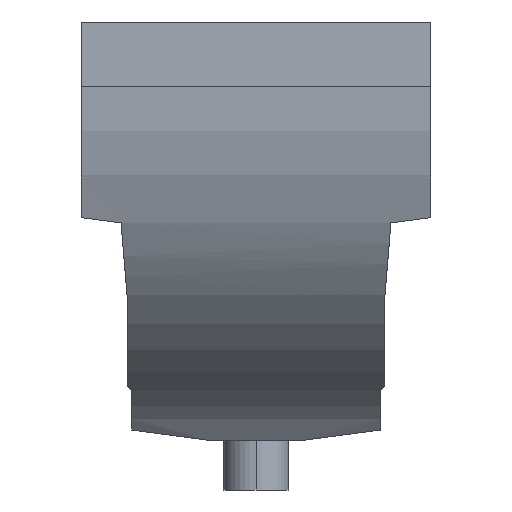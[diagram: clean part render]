
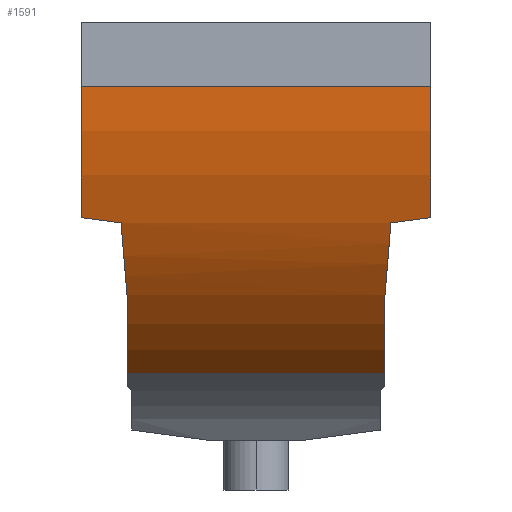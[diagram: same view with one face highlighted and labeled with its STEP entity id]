
A CAD part, left-side view. The second image highlights one B-rep face of the part: STEP entity #1591.
In plain terms, the highlighted cylindrical face has radius 115.29 mm (diameter 230.58 mm), a partial arc.
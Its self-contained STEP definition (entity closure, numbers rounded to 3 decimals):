
#19 = CARTESIAN_POINT ( 'NONE',  ( -13.707, -56.155, -89.77 ) ) ;
#45 = VERTEX_POINT ( 'NONE', #1635 ) ;
#57 = ORIENTED_EDGE ( 'NONE', *, *, #1519, .T. ) ;
#94 = DIRECTION ( 'NONE',  ( 0., 0., 1. ) ) ;
#97 = LINE ( 'NONE', #2329, #1002 ) ;
#114 = DIRECTION ( 'NONE',  ( 0., -1., 0. ) ) ;
#115 = CARTESIAN_POINT ( 'NONE',  ( -13.019, -43.295, -91.48 ) ) ;
#203 = VERTEX_POINT ( 'NONE', #304 ) ;
#221 = DIRECTION ( 'NONE',  ( 0., 1., 0. ) ) ;
#236 = DIRECTION ( 'NONE',  ( 0., 0., -1. ) ) ;
#238 = CARTESIAN_POINT ( 'NONE',  ( -21.7, 56.155, -47.59 ) ) ;
#250 = CARTESIAN_POINT ( 'NONE',  ( -13.019, -43.295, -91.48 ) ) ;
#277 = ORIENTED_EDGE ( 'NONE', *, *, #2262, .F. ) ;
#284 = EDGE_LOOP ( 'NONE', ( #1842, #2315, #2347, #750, #1455, #277, #1276, #459, #800, #57 ) ) ;
#286 = VERTEX_POINT ( 'NONE', #1873 ) ;
#297 = EDGE_CURVE ( 'NONE', #2466, #1245, #675, .T. ) ;
#304 = CARTESIAN_POINT ( 'NONE',  ( 24.53, -41.395, -139.908 ) ) ;
#313 = CARTESIAN_POINT ( 'NONE',  ( -13.482, -51.855, -90.342 ) ) ;
#373 = CARTESIAN_POINT ( 'NONE',  ( -21.7, -57.565, -47.59 ) ) ;
#374 =( BOUNDED_CURVE ( )  B_SPLINE_CURVE ( 3, ( #627, #823, #1384, #250 ),
 .UNSPECIFIED., .F., .F. ) 
 B_SPLINE_CURVE_WITH_KNOTS ( ( 4, 4 ),
 ( 0.95, 1.18 ),
 .UNSPECIFIED. ) 
 CURVE ( )  GEOMETRIC_REPRESENTATION_ITEM ( )  RATIONAL_B_SPLINE_CURVE ( ( 1., 0.996, 0.996, 1. ) ) 
 REPRESENTATION_ITEM ( '' )  );
#381 = CARTESIAN_POINT ( 'NONE',  ( -0.212, 41.395, -114.62 ) ) ;
#435 = AXIS2_PLACEMENT_3D ( 'NONE', #1807, #698, #690 ) ;
#452 = DIRECTION ( 'NONE',  ( 0., 0., 1. ) ) ;
#454 = CIRCLE ( 'NONE', #435, 115.29 ) ;
#459 = ORIENTED_EDGE ( 'NONE', *, *, #1418, .T. ) ;
#473 = AXIS2_PLACEMENT_3D ( 'NONE', #1425, #662, #1631 ) ;
#618 = CARTESIAN_POINT ( 'NONE',  ( -13.019, 43.295, -91.48 ) ) ;
#627 = CARTESIAN_POINT ( 'NONE',  ( -0.212, -41.395, -114.62 ) ) ;
#631 = CARTESIAN_POINT ( 'NONE',  ( -13.253, 47.568, -90.912 ) ) ;
#641 =( BOUNDED_CURVE ( )  B_SPLINE_CURVE ( 3, ( #1741, #1169, #631, #618 ),
 .UNSPECIFIED., .F., .F. ) 
 B_SPLINE_CURVE_WITH_KNOTS ( ( 4, 4 ),
 ( 1.945, 1.961 ),
 .UNSPECIFIED. ) 
 CURVE ( )  GEOMETRIC_REPRESENTATION_ITEM ( )  RATIONAL_B_SPLINE_CURVE ( ( 1., 1., 1., 1. ) ) 
 REPRESENTATION_ITEM ( '' )  );
#662 = DIRECTION ( 'NONE',  ( 0., 1., 0. ) ) ;
#674 = DIRECTION ( 'NONE',  ( 0., 1., 0. ) ) ;
#675 =( BOUNDED_CURVE ( )  B_SPLINE_CURVE ( 3, ( #948, #935, #761, #381 ),
 .UNSPECIFIED., .F., .F. ) 
 B_SPLINE_CURVE_WITH_KNOTS ( ( 4, 4 ),
 ( 1.961, 2.191 ),
 .UNSPECIFIED. ) 
 CURVE ( )  GEOMETRIC_REPRESENTATION_ITEM ( )  RATIONAL_B_SPLINE_CURVE ( ( 1., 0.996, 0.996, 1. ) ) 
 REPRESENTATION_ITEM ( '' )  );
#681 = CARTESIAN_POINT ( 'NONE',  ( 93.59, -57.565, -47.59 ) ) ;
#690 = DIRECTION ( 'NONE',  ( 0., 0., 1. ) ) ;
#698 = DIRECTION ( 'NONE',  ( 0., -1., 0. ) ) ;
#750 = ORIENTED_EDGE ( 'NONE', *, *, #297, .T. ) ;
#761 = CARTESIAN_POINT ( 'NONE',  ( -5.36, 41.987, -107.416 ) ) ;
#772 = VERTEX_POINT ( 'NONE', #19 ) ;
#791 = CARTESIAN_POINT ( 'NONE',  ( 24.53, 41.395, -139.908 ) ) ;
#798 = EDGE_CURVE ( 'NONE', #203, #958, #1517, .T. ) ;
#800 = ORIENTED_EDGE ( 'NONE', *, *, #1135, .T. ) ;
#823 = CARTESIAN_POINT ( 'NONE',  ( -5.36, -41.987, -107.416 ) ) ;
#874 = CIRCLE ( 'NONE', #473, 115.29 ) ;
#935 = CARTESIAN_POINT ( 'NONE',  ( -9.648, 42.623, -99.668 ) ) ;
#948 = CARTESIAN_POINT ( 'NONE',  ( -13.019, 43.295, -91.48 ) ) ;
#958 = VERTEX_POINT ( 'NONE', #1606 ) ;
#972 = CYLINDRICAL_SURFACE ( 'NONE', #1243, 115.29 ) ;
#1002 = VECTOR ( 'NONE', #2317, 1000. ) ;
#1113 = EDGE_CURVE ( 'NONE', #1245, #2067, #454, .T. ) ;
#1135 = EDGE_CURVE ( 'NONE', #286, #772, #1295, .T. ) ;
#1169 = CARTESIAN_POINT ( 'NONE',  ( -13.482, 51.855, -90.342 ) ) ;
#1194 = CARTESIAN_POINT ( 'NONE',  ( -21.7, -56.155, -47.59 ) ) ;
#1243 = AXIS2_PLACEMENT_3D ( 'NONE', #681, #674, #94 ) ;
#1245 = VERTEX_POINT ( 'NONE', #1304 ) ;
#1276 = ORIENTED_EDGE ( 'NONE', *, *, #798, .T. ) ;
#1295 =( BOUNDED_CURVE ( )  B_SPLINE_CURVE ( 3, ( #115, #1459, #313, #1465 ),
 .UNSPECIFIED., .F., .F. ) 
 B_SPLINE_CURVE_WITH_KNOTS ( ( 4, 4 ),
 ( 1.18, 1.196 ),
 .UNSPECIFIED. ) 
 CURVE ( )  GEOMETRIC_REPRESENTATION_ITEM ( )  RATIONAL_B_SPLINE_CURVE ( ( 1., 1., 1., 1. ) ) 
 REPRESENTATION_ITEM ( '' )  );
#1301 = FACE_OUTER_BOUND ( 'NONE', #284, .T. ) ;
#1304 = CARTESIAN_POINT ( 'NONE',  ( -0.212, 41.395, -114.62 ) ) ;
#1325 = EDGE_CURVE ( 'NONE', #2090, #2131, #2107, .T. ) ;
#1384 = CARTESIAN_POINT ( 'NONE',  ( -9.648, -42.623, -99.668 ) ) ;
#1418 = EDGE_CURVE ( 'NONE', #958, #286, #374, .T. ) ;
#1425 = CARTESIAN_POINT ( 'NONE',  ( 93.59, -56.155, -47.59 ) ) ;
#1455 = ORIENTED_EDGE ( 'NONE', *, *, #1113, .T. ) ;
#1458 = CARTESIAN_POINT ( 'NONE',  ( 93.59, 56.155, -47.59 ) ) ;
#1459 = CARTESIAN_POINT ( 'NONE',  ( -13.253, -47.568, -90.912 ) ) ;
#1465 = CARTESIAN_POINT ( 'NONE',  ( -13.707, -56.155, -89.77 ) ) ;
#1479 = CIRCLE ( 'NONE', #2361, 115.29 ) ;
#1517 = CIRCLE ( 'NONE', #2469, 115.29 ) ;
#1519 = EDGE_CURVE ( 'NONE', #772, #2090, #874, .T. ) ;
#1543 = CARTESIAN_POINT ( 'NONE',  ( -13.019, 43.295, -91.48 ) ) ;
#1577 = CARTESIAN_POINT ( 'NONE',  ( 93.59, -41.395, -47.59 ) ) ;
#1591 = ADVANCED_FACE ( 'CYL_6', ( #1301 ), #972, .T. ) ;
#1606 = CARTESIAN_POINT ( 'NONE',  ( -0.212, -41.395, -114.62 ) ) ;
#1631 = DIRECTION ( 'NONE',  ( 0., 0., 1. ) ) ;
#1635 = CARTESIAN_POINT ( 'NONE',  ( -13.707, 56.155, -89.77 ) ) ;
#1741 = CARTESIAN_POINT ( 'NONE',  ( -13.707, 56.155, -89.77 ) ) ;
#1807 = CARTESIAN_POINT ( 'NONE',  ( 93.59, 41.395, -47.59 ) ) ;
#1842 = ORIENTED_EDGE ( 'NONE', *, *, #1325, .T. ) ;
#1863 = VECTOR ( 'NONE', #2463, 1000. ) ;
#1873 = CARTESIAN_POINT ( 'NONE',  ( -13.019, -43.295, -91.48 ) ) ;
#1932 = EDGE_CURVE ( 'NONE', #2131, #45, #1479, .T. ) ;
#2067 = VERTEX_POINT ( 'NONE', #791 ) ;
#2081 = EDGE_CURVE ( 'NONE', #45, #2466, #641, .T. ) ;
#2090 = VERTEX_POINT ( 'NONE', #1194 ) ;
#2107 = LINE ( 'NONE', #373, #1863 ) ;
#2131 = VERTEX_POINT ( 'NONE', #238 ) ;
#2262 = EDGE_CURVE ( 'NONE', #203, #2067, #97, .T. ) ;
#2315 = ORIENTED_EDGE ( 'NONE', *, *, #1932, .T. ) ;
#2317 = DIRECTION ( 'NONE',  ( 0., 1., 0. ) ) ;
#2329 = CARTESIAN_POINT ( 'NONE',  ( 24.53, -57.565, -139.908 ) ) ;
#2347 = ORIENTED_EDGE ( 'NONE', *, *, #2081, .T. ) ;
#2361 = AXIS2_PLACEMENT_3D ( 'NONE', #1458, #114, #452 ) ;
#2463 = DIRECTION ( 'NONE',  ( 0., 1., 0. ) ) ;
#2466 = VERTEX_POINT ( 'NONE', #1543 ) ;
#2469 = AXIS2_PLACEMENT_3D ( 'NONE', #1577, #221, #236 ) ;
